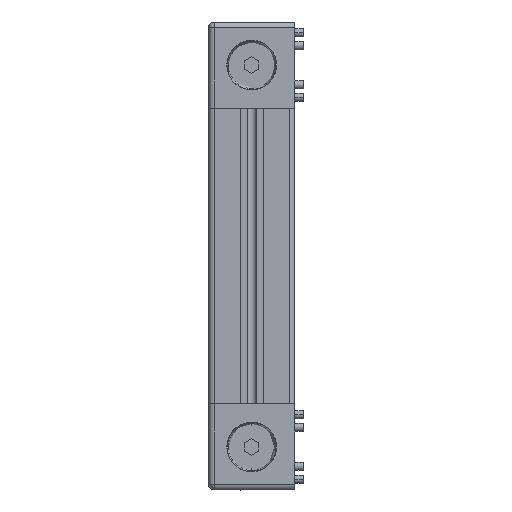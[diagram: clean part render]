
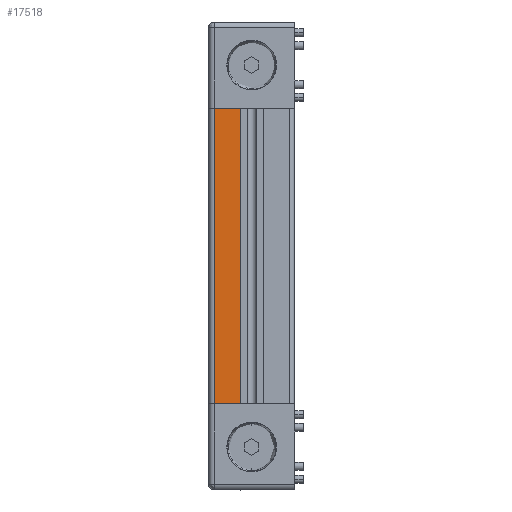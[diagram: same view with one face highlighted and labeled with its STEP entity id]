
A CAD part, left-side view. The second image highlights one B-rep face of the part: STEP entity #17518.
In plain terms, the highlighted planar face has unit normal (-1, 0, 0) as drawn and (0, 1, 0) by its records, which use the part's own axes.
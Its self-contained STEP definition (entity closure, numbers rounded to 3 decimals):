
#112 = CARTESIAN_POINT ( 'NONE',  ( -103., 15., -13. ) ) ;
#120 = ORIENTED_EDGE ( 'NONE', *, *, #41189, .F. ) ;
#3645 = CARTESIAN_POINT ( 'NONE',  ( -103., 15., -4. ) ) ;
#3674 = VECTOR ( 'NONE', #7313, 1000. ) ;
#3694 = CARTESIAN_POINT ( 'NONE',  ( 0., 15., -4. ) ) ;
#4137 = CARTESIAN_POINT ( 'NONE',  ( -103., 15., -4. ) ) ;
#7313 = DIRECTION ( 'NONE',  ( 1., 0., 0. ) ) ;
#8803 = DIRECTION ( 'NONE',  ( 0., 0., -1. ) ) ;
#10063 = ORIENTED_EDGE ( 'NONE', *, *, #17382, .T. ) ;
#10370 = CARTESIAN_POINT ( 'NONE',  ( 0., 15., -13. ) ) ;
#12108 = CARTESIAN_POINT ( 'NONE',  ( 0., 15., -13. ) ) ;
#12445 = LINE ( 'NONE', #31153, #16620 ) ;
#14340 = CARTESIAN_POINT ( 'NONE',  ( -103., 15., -13. ) ) ;
#14753 = LINE ( 'NONE', #3645, #35903 ) ;
#15479 = CARTESIAN_POINT ( 'NONE',  ( -103., 15., -13. ) ) ;
#15713 = PLANE ( 'NONE',  #18756 ) ;
#15731 = DIRECTION ( 'NONE',  ( 0., 0., -1. ) ) ;
#16620 = VECTOR ( 'NONE', #8803, 1000. ) ;
#17382 = EDGE_CURVE ( 'NONE', #46953, #30198, #14753, .T. ) ;
#17518 = ADVANCED_FACE ( 'NONE', ( #34445 ), #15713, .T. ) ;
#18756 = AXIS2_PLACEMENT_3D ( 'NONE', #15479, #23238, #38079 ) ;
#19145 = ORIENTED_EDGE ( 'NONE', *, *, #35005, .F. ) ;
#19592 = LINE ( 'NONE', #12108, #38646 ) ;
#23238 = DIRECTION ( 'NONE',  ( 0., 1., 0. ) ) ;
#25539 = EDGE_LOOP ( 'NONE', ( #19145, #10063, #47905, #120 ) ) ;
#30198 = VERTEX_POINT ( 'NONE', #3694 ) ;
#31153 = CARTESIAN_POINT ( 'NONE',  ( -103., 15., -14.5 ) ) ;
#34445 = FACE_OUTER_BOUND ( 'NONE', #25539, .T. ) ;
#35005 = EDGE_CURVE ( 'NONE', #46953, #35605, #12445, .T. ) ;
#35605 = VERTEX_POINT ( 'NONE', #112 ) ;
#35903 = VECTOR ( 'NONE', #40982, 1000. ) ;
#36695 = LINE ( 'NONE', #14340, #3674 ) ;
#38079 = DIRECTION ( 'NONE',  ( -1., 0., 0. ) ) ;
#38646 = VECTOR ( 'NONE', #15731, 1000. ) ;
#40982 = DIRECTION ( 'NONE',  ( 1., 0., 0. ) ) ;
#41189 = EDGE_CURVE ( 'NONE', #35605, #47296, #36695, .T. ) ;
#44941 = EDGE_CURVE ( 'NONE', #30198, #47296, #19592, .T. ) ;
#46953 = VERTEX_POINT ( 'NONE', #4137 ) ;
#47296 = VERTEX_POINT ( 'NONE', #10370 ) ;
#47905 = ORIENTED_EDGE ( 'NONE', *, *, #44941, .T. ) ;
